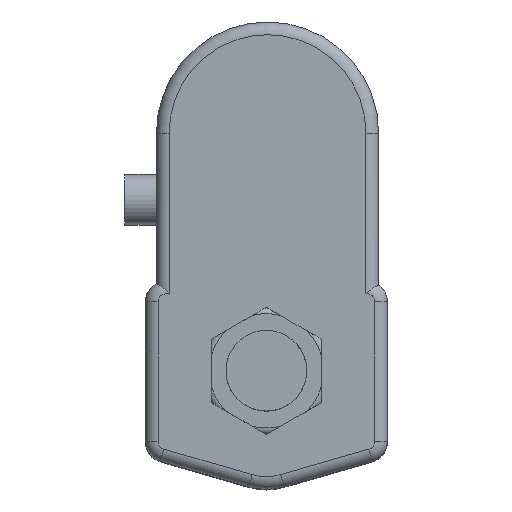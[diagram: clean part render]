
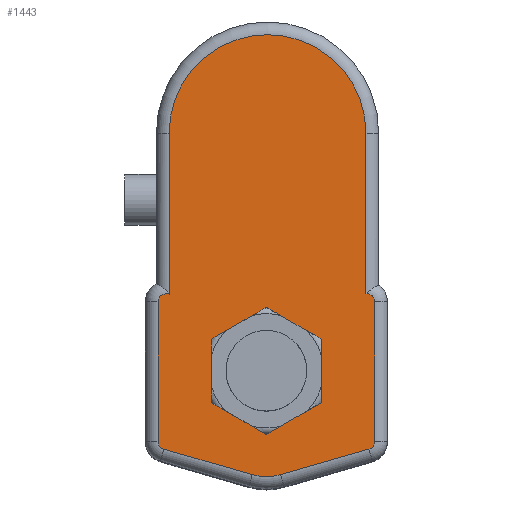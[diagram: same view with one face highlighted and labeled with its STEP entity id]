
A CAD part, top view. The second image highlights one B-rep face of the part: STEP entity #1443.
In plain terms, the highlighted planar face has unit normal (0, 0, 1).
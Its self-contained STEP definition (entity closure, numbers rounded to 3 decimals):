
#103 = AXIS2_PLACEMENT_3D ( 'NONE', #2531, #2547, #2548 ) ;
#211 = AXIS2_PLACEMENT_3D ( 'NONE', #3583, #3590, #3591 ) ;
#216 = AXIS2_PLACEMENT_3D ( 'NONE', #3602, #3615, #3616 ) ;
#218 = AXIS2_PLACEMENT_3D ( 'NONE', #3597, #3608, #3609 ) ;
#220 = AXIS2_PLACEMENT_3D ( 'NONE', #3607, #3620, #3621 ) ;
#221 = AXIS2_PLACEMENT_3D ( 'NONE', #3614, #3625, #3626 ) ;
#222 = AXIS2_PLACEMENT_3D ( 'NONE', #3619, #3629, #3630 ) ;
#365 = EDGE_LOOP ( 'NONE', ( #1064, #1065, #1066, #1067, #1068, #1069, #1070, #1071, #1072, #1073, #1074, #1075 ) ) ;
#374 = EDGE_LOOP ( 'NONE', ( #1076, #1077, #1078, #1079, #1080, #1081 ) ) ;
#828 = FACE_BOUND ( 'NONE', #374, .T. ) ;
#833 = FACE_OUTER_BOUND ( 'NONE', #365, .T. ) ;
#1064 = ORIENTED_EDGE ( 'NONE', *, *, #1649, .T. ) ;
#1065 = ORIENTED_EDGE ( 'NONE', *, *, #1648, .T. ) ;
#1066 = ORIENTED_EDGE ( 'NONE', *, *, #1646, .T. ) ;
#1067 = ORIENTED_EDGE ( 'NONE', *, *, #1650, .T. ) ;
#1068 = ORIENTED_EDGE ( 'NONE', *, *, #1639, .T. ) ;
#1069 = ORIENTED_EDGE ( 'NONE', *, *, #1647, .T. ) ;
#1070 = ORIENTED_EDGE ( 'NONE', *, *, #1651, .T. ) ;
#1071 = ORIENTED_EDGE ( 'NONE', *, *, #1652, .T. ) ;
#1072 = ORIENTED_EDGE ( 'NONE', *, *, #1653, .T. ) ;
#1073 = ORIENTED_EDGE ( 'NONE', *, *, #1654, .T. ) ;
#1074 = ORIENTED_EDGE ( 'NONE', *, *, #1655, .T. ) ;
#1075 = ORIENTED_EDGE ( 'NONE', *, *, #1656, .T. ) ;
#1076 = ORIENTED_EDGE ( 'NONE', *, *, #1658, .F. ) ;
#1077 = ORIENTED_EDGE ( 'NONE', *, *, #1657, .F. ) ;
#1078 = ORIENTED_EDGE ( 'NONE', *, *, #1660, .F. ) ;
#1079 = ORIENTED_EDGE ( 'NONE', *, *, #1659, .F. ) ;
#1080 = ORIENTED_EDGE ( 'NONE', *, *, #1661, .F. ) ;
#1081 = ORIENTED_EDGE ( 'NONE', *, *, #1662, .F. ) ;
#1443 = ADVANCED_FACE ( 'NONE', ( #833, #828 ), #2546, .T. ) ;
#1639 = EDGE_CURVE ( 'NONE', #1997, #1898, #2127, .T. ) ;
#1646 = EDGE_CURVE ( 'NONE', #1943, #1926, #2152, .T. ) ;
#1647 = EDGE_CURVE ( 'NONE', #1898, #1978, #2105, .T. ) ;
#1648 = EDGE_CURVE ( 'NONE', #1794, #1943, #2154, .T. ) ;
#1649 = EDGE_CURVE ( 'NONE', #1935, #1794, #2162, .T. ) ;
#1650 = EDGE_CURVE ( 'NONE', #1926, #1997, #2145, .T. ) ;
#1651 = EDGE_CURVE ( 'NONE', #1978, #1865, #2169, .T. ) ;
#1652 = EDGE_CURVE ( 'NONE', #1865, #1939, #2148, .T. ) ;
#1653 = EDGE_CURVE ( 'NONE', #1939, #2043, #2176, .T. ) ;
#1654 = EDGE_CURVE ( 'NONE', #2043, #1874, #2159, .T. ) ;
#1655 = EDGE_CURVE ( 'NONE', #1874, #1992, #2183, .T. ) ;
#1656 = EDGE_CURVE ( 'NONE', #1992, #1935, #2166, .T. ) ;
#1657 = EDGE_CURVE ( 'NONE', #1981, #2017, #2184, .T. ) ;
#1658 = EDGE_CURVE ( 'NONE', #2017, #1975, #2188, .T. ) ;
#1659 = EDGE_CURVE ( 'NONE', #1881, #1845, #2181, .T. ) ;
#1660 = EDGE_CURVE ( 'NONE', #1845, #1981, #2196, .T. ) ;
#1661 = EDGE_CURVE ( 'NONE', #1904, #1881, #2200, .T. ) ;
#1662 = EDGE_CURVE ( 'NONE', #1975, #1904, #2172, .T. ) ;
#1794 = VERTEX_POINT ( 'NONE', #3814 ) ;
#1845 = VERTEX_POINT ( 'NONE', #3820 ) ;
#1865 = VERTEX_POINT ( 'NONE', #3825 ) ;
#1874 = VERTEX_POINT ( 'NONE', #3831 ) ;
#1881 = VERTEX_POINT ( 'NONE', #3835 ) ;
#1898 = VERTEX_POINT ( 'NONE', #3843 ) ;
#1904 = VERTEX_POINT ( 'NONE', #3847 ) ;
#1926 = VERTEX_POINT ( 'NONE', #3859 ) ;
#1935 = VERTEX_POINT ( 'NONE', #3864 ) ;
#1939 = VERTEX_POINT ( 'NONE', #3867 ) ;
#1943 = VERTEX_POINT ( 'NONE', #3869 ) ;
#1975 = VERTEX_POINT ( 'NONE', #3887 ) ;
#1978 = VERTEX_POINT ( 'NONE', #3888 ) ;
#1981 = VERTEX_POINT ( 'NONE', #3889 ) ;
#1992 = VERTEX_POINT ( 'NONE', #3893 ) ;
#1997 = VERTEX_POINT ( 'NONE', #3896 ) ;
#2017 = VERTEX_POINT ( 'NONE', #3906 ) ;
#2043 = VERTEX_POINT ( 'NONE', #3916 ) ;
#2105 = LINE ( 'NONE', #3610, #2134 ) ;
#2127 = CIRCLE ( 'NONE', #211, 16. ) ;
#2134 = VECTOR ( 'NONE', #3611, 1000. ) ;
#2145 = LINE ( 'NONE', #3617, #2150 ) ;
#2148 = LINE ( 'NONE', #3622, #2161 ) ;
#2150 = VECTOR ( 'NONE', #3618, 1000. ) ;
#2152 = CIRCLE ( 'NONE', #218, 2.5 ) ;
#2154 = LINE ( 'NONE', #3612, #2156 ) ;
#2156 = VECTOR ( 'NONE', #3613, 1000. ) ;
#2159 = LINE ( 'NONE', #3627, #2167 ) ;
#2161 = VECTOR ( 'NONE', #3623, 1000. ) ;
#2162 = CIRCLE ( 'NONE', #216, 2.5 ) ;
#2166 = LINE ( 'NONE', #3631, #2174 ) ;
#2167 = VECTOR ( 'NONE', #3628, 1000. ) ;
#2169 = CIRCLE ( 'NONE', #220, 2.5 ) ;
#2172 = LINE ( 'NONE', #3637, #2203 ) ;
#2174 = VECTOR ( 'NONE', #3632, 1000. ) ;
#2176 = CIRCLE ( 'NONE', #221, 2.5 ) ;
#2181 = LINE ( 'NONE', #3624, #2192 ) ;
#2183 = CIRCLE ( 'NONE', #222, 31. ) ;
#2184 = LINE ( 'NONE', #3633, #2186 ) ;
#2186 = VECTOR ( 'NONE', #3634, 1000. ) ;
#2188 = LINE ( 'NONE', #3635, #2190 ) ;
#2190 = VECTOR ( 'NONE', #3636, 1000. ) ;
#2192 = VECTOR ( 'NONE', #3638, 1000. ) ;
#2196 = LINE ( 'NONE', #3639, #2197 ) ;
#2197 = VECTOR ( 'NONE', #3640, 1000. ) ;
#2200 = LINE ( 'NONE', #3641, #2202 ) ;
#2202 = VECTOR ( 'NONE', #3642, 1000. ) ;
#2203 = VECTOR ( 'NONE', #3645, 1000. ) ;
#2531 = CARTESIAN_POINT ( 'NONE',  ( 31.6, 21.81, 127.9 ) ) ;
#2546 = PLANE ( 'NONE',  #103 ) ;
#2547 = DIRECTION ( 'NONE',  ( 0., 0., 1. ) ) ;
#2548 = DIRECTION ( 'NONE',  ( 1., 0., 0. ) ) ;
#3583 = CARTESIAN_POINT ( 'NONE',  ( 0., -17.283, 127.9 ) ) ;
#3590 = DIRECTION ( 'NONE',  ( 0., 0., 1. ) ) ;
#3591 = DIRECTION ( 'NONE',  ( 1., 0., 0. ) ) ;
#3597 = CARTESIAN_POINT ( 'NONE',  ( -31.6, -22.211, 127.9 ) ) ;
#3602 = CARTESIAN_POINT ( 'NONE',  ( -31.6, 21.81, 127.9 ) ) ;
#3607 = CARTESIAN_POINT ( 'NONE',  ( 31.6, -22.211, 127.9 ) ) ;
#3608 = DIRECTION ( 'NONE',  ( 0., 0., 1. ) ) ;
#3609 = DIRECTION ( 'NONE',  ( 1., 0., 0. ) ) ;
#3610 = CARTESIAN_POINT ( 'NONE',  ( 44.025, -21.226, 127.9 ) ) ;
#3611 = DIRECTION ( 'NONE',  ( 0.961, 0.277, 0. ) ) ;
#3612 = CARTESIAN_POINT ( 'NONE',  ( -34.1, 21.81, 127.9 ) ) ;
#3613 = DIRECTION ( 'NONE',  ( 0., -1., 0. ) ) ;
#3614 = CARTESIAN_POINT ( 'NONE',  ( 31.6, 21.81, 127.9 ) ) ;
#3615 = DIRECTION ( 'NONE',  ( 0., 0., 1. ) ) ;
#3616 = DIRECTION ( 'NONE',  ( 1., 0., 0. ) ) ;
#3617 = CARTESIAN_POINT ( 'NONE',  ( 14.312, -38.069, 127.9 ) ) ;
#3618 = DIRECTION ( 'NONE',  ( 0.961, -0.277, 0. ) ) ;
#3619 = CARTESIAN_POINT ( 'NONE',  ( 0.376, 74.902, 127.9 ) ) ;
#3620 = DIRECTION ( 'NONE',  ( 0., 0., 1. ) ) ;
#3621 = DIRECTION ( 'NONE',  ( 1., 0., 0. ) ) ;
#3622 = CARTESIAN_POINT ( 'NONE',  ( 34.1, 21.81, 127.9 ) ) ;
#3623 = DIRECTION ( 'NONE',  ( 0., 1., 0. ) ) ;
#3624 = CARTESIAN_POINT ( 'NONE',  ( -17.321, 10., 127.9 ) ) ;
#3625 = DIRECTION ( 'NONE',  ( 0., 0., 1. ) ) ;
#3626 = DIRECTION ( 'NONE',  ( 1., 0., 0. ) ) ;
#3627 = CARTESIAN_POINT ( 'NONE',  ( 31.376, 21.81, 127.9 ) ) ;
#3628 = DIRECTION ( 'NONE',  ( 0., 1., 0. ) ) ;
#3629 = DIRECTION ( 'NONE',  ( 0., 0., 1. ) ) ;
#3630 = DIRECTION ( 'NONE',  ( 1., 0., 0. ) ) ;
#3631 = CARTESIAN_POINT ( 'NONE',  ( -30.624, 21.81, 127.9 ) ) ;
#3632 = DIRECTION ( 'NONE',  ( 0., -1., 0. ) ) ;
#3633 = CARTESIAN_POINT ( 'NONE',  ( 0., -20., 127.9 ) ) ;
#3634 = DIRECTION ( 'NONE',  ( 0.866, 0.5, 0. ) ) ;
#3635 = CARTESIAN_POINT ( 'NONE',  ( 17.321, -10., 127.9 ) ) ;
#3636 = DIRECTION ( 'NONE',  ( 0., 1., 0. ) ) ;
#3637 = CARTESIAN_POINT ( 'NONE',  ( 17.321, 10., 127.9 ) ) ;
#3638 = DIRECTION ( 'NONE',  ( 0., -1., 0. ) ) ;
#3639 = CARTESIAN_POINT ( 'NONE',  ( -17.321, -10., 127.9 ) ) ;
#3640 = DIRECTION ( 'NONE',  ( 0.866, -0.5, 0. ) ) ;
#3641 = CARTESIAN_POINT ( 'NONE',  ( 0., 20., 127.9 ) ) ;
#3642 = DIRECTION ( 'NONE',  ( -0.866, -0.5, 0. ) ) ;
#3645 = DIRECTION ( 'NONE',  ( -0.866, 0.5, 0. ) ) ;
#3814 = CARTESIAN_POINT ( 'NONE',  ( -34.1, 21.81, 127.9 ) ) ;
#3820 = CARTESIAN_POINT ( 'NONE',  ( -17.321, -10., 127.9 ) ) ;
#3825 = CARTESIAN_POINT ( 'NONE',  ( 34.1, -22.211, 127.9 ) ) ;
#3831 = CARTESIAN_POINT ( 'NONE',  ( 31.376, 74.902, 127.9 ) ) ;
#3835 = CARTESIAN_POINT ( 'NONE',  ( -17.321, 10., 127.9 ) ) ;
#3843 = CARTESIAN_POINT ( 'NONE',  ( 4.438, -32.655, 127.9 ) ) ;
#3847 = CARTESIAN_POINT ( 'NONE',  ( 0., 20., 127.9 ) ) ;
#3859 = CARTESIAN_POINT ( 'NONE',  ( -32.293, -24.613, 127.9 ) ) ;
#3864 = CARTESIAN_POINT ( 'NONE',  ( -30.624, 24.111, 127.9 ) ) ;
#3867 = CARTESIAN_POINT ( 'NONE',  ( 34.1, 21.81, 127.9 ) ) ;
#3869 = CARTESIAN_POINT ( 'NONE',  ( -34.1, -22.211, 127.9 ) ) ;
#3887 = CARTESIAN_POINT ( 'NONE',  ( 17.321, 10., 127.9 ) ) ;
#3888 = CARTESIAN_POINT ( 'NONE',  ( 32.293, -24.613, 127.9 ) ) ;
#3889 = CARTESIAN_POINT ( 'NONE',  ( 0., -20., 127.9 ) ) ;
#3893 = CARTESIAN_POINT ( 'NONE',  ( -30.624, 74.902, 127.9 ) ) ;
#3896 = CARTESIAN_POINT ( 'NONE',  ( -4.438, -32.655, 127.9 ) ) ;
#3906 = CARTESIAN_POINT ( 'NONE',  ( 17.321, -10., 127.9 ) ) ;
#3916 = CARTESIAN_POINT ( 'NONE',  ( 31.376, 24.299, 127.9 ) ) ;
